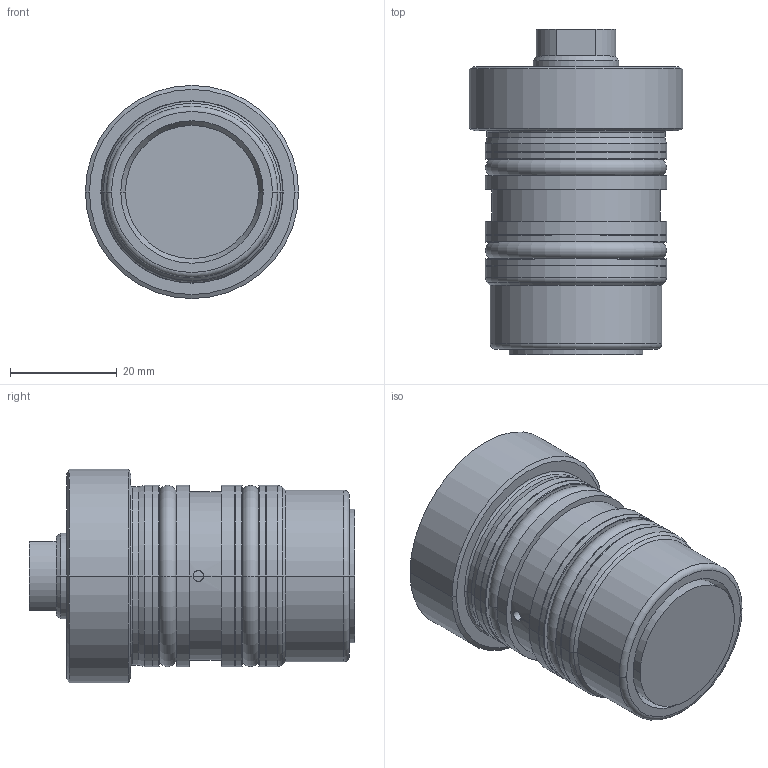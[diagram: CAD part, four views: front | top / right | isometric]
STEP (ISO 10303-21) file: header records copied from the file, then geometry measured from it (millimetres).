
FILE_DESCRIPTION (( 'STEP AP203' ), '1' );
FILE_NAME ('GERMA_Einschraubzylinder_200-025-020.STEP', '2023-09-06T06:43:39', ( '' ), ( '' ), 'SwSTEP 2.0', 'SolidWorks 2016', '' );
FILE_SCHEMA (( 'CONFIG_CONTROL_DESIGN' ));
Length unit declared in the file: millimetre
Products named in the file (3): GERMA_Einschraubzylinder_200-025-020; Kolben 60x-025_Kolben DU.25-Hub20-IG; Gehaeuse 200-025_Gehaeuse 200-025-020
Assembly tree (2 placements, depth 2):
  GERMA_Einschraubzylinder_200-025-020
    Gehaeuse 200-025_Gehaeuse 200-025-020
    Kolben 60x-025_Kolben DU.25-Hub20-IG
Bounding box: 40 x 61 x 40 mm (x, y, z)
Volume: 44676.7 mm3; surface area: 17250.4 mm2
Topology: 2 solids, 2 shells, 252 faces, 623 edges, 396 vertices
Faces by surface type: plane 95, bspline 68, cylinder 45, torus 22, cone 22
Entity records: 11345 total; most frequent: CARTESIAN_POINT 5454, ORIENTED_EDGE 1234, DIRECTION 998, EDGE_CURVE 617, VERTEX_POINT 396, AXIS2_PLACEMENT_3D 336, LINE 326, VECTOR 326
